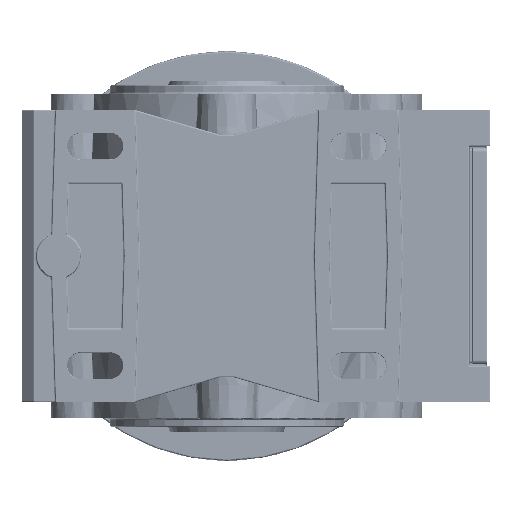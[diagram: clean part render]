
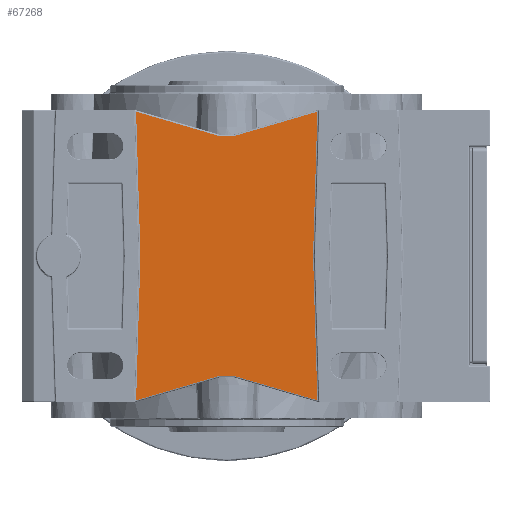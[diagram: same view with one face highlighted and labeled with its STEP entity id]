
A CAD part, left-side view. The second image highlights one B-rep face of the part: STEP entity #67268.
In plain terms, the highlighted planar face has unit normal (-1, 0, 0).
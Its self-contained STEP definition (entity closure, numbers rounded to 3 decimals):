
#67127=CARTESIAN_POINT('',(-69.0,0.,3.836));
#67128=DIRECTION('',(1.0,0.0,0.0));
#67129=DIRECTION('',(0.0,0.0,-1.0));
#67130=AXIS2_PLACEMENT_3D('',#67127,#67128,#67129);
#67131=PLANE('',#67130);
#67132=CARTESIAN_POINT('',(-69.0,-30.98,-70.826));
#67133=VERTEX_POINT('',#67132);
#67134=CARTESIAN_POINT('',(-69.0,-2.778,-62.561));
#67135=VERTEX_POINT('',#67134);
#67136=CARTESIAN_POINT('',(-69.0,-30.98,-70.826));
#67137=DIRECTION('',(0.0,0.96,0.281));
#67138=VECTOR('',#67137,29.388);
#67139=LINE('',#67136,#67138);
#67140=EDGE_CURVE('',#67133,#67135,#67139,.T.);
#67141=ORIENTED_EDGE('',*,*,#67140,.F.);
#67142=CARTESIAN_POINT('',(-69.0,-29.501,-21.53));
#67143=VERTEX_POINT('',#67142);
#67144=CARTESIAN_POINT('',(-69.0,-29.501,-21.53));
#67145=DIRECTION('',(0.0,-0.03,-1.));
#67146=VECTOR('',#67145,49.319);
#67147=LINE('',#67144,#67146);
#67148=EDGE_CURVE('',#67143,#67133,#67147,.T.);
#67149=ORIENTED_EDGE('',*,*,#67148,.F.);
#67150=CARTESIAN_POINT('',(-69.0,-29.501,-21.47));
#67151=VERTEX_POINT('',#67150);
#67152=CARTESIAN_POINT('',(-69.0,-30.5,-21.5));
#67153=DIRECTION('',(-1.0,0.0,0.0));
#67154=DIRECTION('',(0.0,1.0,0.0));
#67155=AXIS2_PLACEMENT_3D('',#67152,#67153,#67154);
#67156=CIRCLE('',#67155,1.0);
#67157=EDGE_CURVE('',#67151,#67143,#67156,.T.);
#67158=ORIENTED_EDGE('',*,*,#67157,.F.);
#67159=CARTESIAN_POINT('',(-69.0,-30.98,27.826));
#67160=VERTEX_POINT('',#67159);
#67161=CARTESIAN_POINT('',(-69.0,-30.98,27.826));
#67162=DIRECTION('',(0.0,0.03,-1.));
#67163=VECTOR('',#67162,49.319);
#67164=LINE('',#67161,#67163);
#67165=EDGE_CURVE('',#67160,#67151,#67164,.T.);
#67166=ORIENTED_EDGE('',*,*,#67165,.F.);
#67167=CARTESIAN_POINT('',(-69.0,-2.778,19.561));
#67168=VERTEX_POINT('',#67167);
#67169=CARTESIAN_POINT('',(-69.0,-2.778,19.561));
#67170=DIRECTION('',(0.0,-0.96,0.281));
#67171=VECTOR('',#67170,29.388);
#67172=LINE('',#67169,#67171);
#67173=EDGE_CURVE('',#67168,#67160,#67172,.T.);
#67174=ORIENTED_EDGE('',*,*,#67173,.F.);
#67175=CARTESIAN_POINT('',(-69.0,-2.356,19.5));
#67176=VERTEX_POINT('',#67175);
#67177=CARTESIAN_POINT('',(-69.0,-2.356,21.0));
#67178=DIRECTION('',(-1.0,0.,0.));
#67179=DIRECTION('',(0.,-0.142,-0.99));
#67180=AXIS2_PLACEMENT_3D('',#67177,#67178,#67179);
#67181=CIRCLE('',#67180,1.5);
#67182=EDGE_CURVE('',#67176,#67168,#67181,.T.);
#67183=ORIENTED_EDGE('',*,*,#67182,.F.);
#67184=CARTESIAN_POINT('',(-69.0,2.356,19.5));
#67185=VERTEX_POINT('',#67184);
#67186=CARTESIAN_POINT('',(-69.0,2.356,19.5));
#67187=DIRECTION('',(0.0,-1.0,0.0));
#67188=VECTOR('',#67187,4.713);
#67189=LINE('',#67186,#67188);
#67190=EDGE_CURVE('',#67185,#67176,#67189,.T.);
#67191=ORIENTED_EDGE('',*,*,#67190,.F.);
#67192=CARTESIAN_POINT('',(-69.0,2.778,19.561));
#67193=VERTEX_POINT('',#67192);
#67194=CARTESIAN_POINT('',(-69.0,2.356,21.0));
#67195=DIRECTION('',(-1.0,0.,0.));
#67196=DIRECTION('',(0.,0.142,-0.99));
#67197=AXIS2_PLACEMENT_3D('',#67194,#67195,#67196);
#67198=CIRCLE('',#67197,1.5);
#67199=EDGE_CURVE('',#67193,#67185,#67198,.T.);
#67200=ORIENTED_EDGE('',*,*,#67199,.F.);
#67201=CARTESIAN_POINT('',(-69.,30.98,27.826));
#67202=VERTEX_POINT('',#67201);
#67203=CARTESIAN_POINT('',(-69.,30.98,27.826));
#67204=DIRECTION('',(0.,-0.96,-0.281));
#67205=VECTOR('',#67204,29.388);
#67206=LINE('',#67203,#67205);
#67207=EDGE_CURVE('',#67202,#67193,#67206,.T.);
#67208=ORIENTED_EDGE('',*,*,#67207,.F.);
#67209=CARTESIAN_POINT('',(-69.,29.5,-21.479));
#67210=VERTEX_POINT('',#67209);
#67211=CARTESIAN_POINT('',(-69.,29.5,-21.479));
#67212=DIRECTION('',(0.0,0.03,1.));
#67213=VECTOR('',#67212,49.328);
#67214=LINE('',#67211,#67213);
#67215=EDGE_CURVE('',#67210,#67202,#67214,.T.);
#67216=ORIENTED_EDGE('',*,*,#67215,.F.);
#67217=CARTESIAN_POINT('',(-69.,29.5,-21.521));
#67218=VERTEX_POINT('',#67217);
#67219=CARTESIAN_POINT('',(-69.,30.2,-21.5));
#67220=DIRECTION('',(-1.0,0.0,0.0));
#67221=DIRECTION('',(0.0,-1.0,0.0));
#67222=AXIS2_PLACEMENT_3D('',#67219,#67220,#67221);
#67223=CIRCLE('',#67222,0.7);
#67224=EDGE_CURVE('',#67218,#67210,#67223,.T.);
#67225=ORIENTED_EDGE('',*,*,#67224,.F.);
#67226=CARTESIAN_POINT('',(-69.,30.98,-70.826));
#67227=VERTEX_POINT('',#67226);
#67228=CARTESIAN_POINT('',(-69.,30.98,-70.826));
#67229=DIRECTION('',(0.0,-0.03,1.));
#67230=VECTOR('',#67229,49.328);
#67231=LINE('',#67228,#67230);
#67232=EDGE_CURVE('',#67227,#67218,#67231,.T.);
#67233=ORIENTED_EDGE('',*,*,#67232,.F.);
#67234=CARTESIAN_POINT('',(-69.0,2.778,-62.561));
#67235=VERTEX_POINT('',#67234);
#67236=CARTESIAN_POINT('',(-69.0,2.778,-62.561));
#67237=DIRECTION('',(0.,0.96,-0.281));
#67238=VECTOR('',#67237,29.388);
#67239=LINE('',#67236,#67238);
#67240=EDGE_CURVE('',#67235,#67227,#67239,.T.);
#67241=ORIENTED_EDGE('',*,*,#67240,.F.);
#67242=CARTESIAN_POINT('',(-69.0,2.356,-62.5));
#67243=VERTEX_POINT('',#67242);
#67244=CARTESIAN_POINT('',(-69.0,2.356,-64.));
#67245=DIRECTION('',(-1.0,0.,0.));
#67246=DIRECTION('',(0.,0.142,0.99));
#67247=AXIS2_PLACEMENT_3D('',#67244,#67245,#67246);
#67248=CIRCLE('',#67247,1.5);
#67249=EDGE_CURVE('',#67243,#67235,#67248,.T.);
#67250=ORIENTED_EDGE('',*,*,#67249,.F.);
#67251=CARTESIAN_POINT('',(-69.0,-2.356,-62.5));
#67252=VERTEX_POINT('',#67251);
#67253=CARTESIAN_POINT('',(-69.0,-2.356,-62.5));
#67254=DIRECTION('',(0.0,1.0,0.0));
#67255=VECTOR('',#67254,4.713);
#67256=LINE('',#67253,#67255);
#67257=EDGE_CURVE('',#67252,#67243,#67256,.T.);
#67258=ORIENTED_EDGE('',*,*,#67257,.F.);
#67259=CARTESIAN_POINT('',(-69.0,-2.356,-64.));
#67260=DIRECTION('',(-1.0,0.,0.));
#67261=DIRECTION('',(0.,-0.142,0.99));
#67262=AXIS2_PLACEMENT_3D('',#67259,#67260,#67261);
#67263=CIRCLE('',#67262,1.5);
#67264=EDGE_CURVE('',#67135,#67252,#67263,.T.);
#67265=ORIENTED_EDGE('',*,*,#67264,.F.);
#67266=EDGE_LOOP('',(#67141,#67149,#67158,#67166,#67174,#67183,#67191,#67200,#67208,#67216,#67225,#67233,#67241,#67250,#67258,#67265));
#67267=FACE_OUTER_BOUND('',#67266,.T.);
#67268=ADVANCED_FACE('',(#67267),#67131,.F.);
